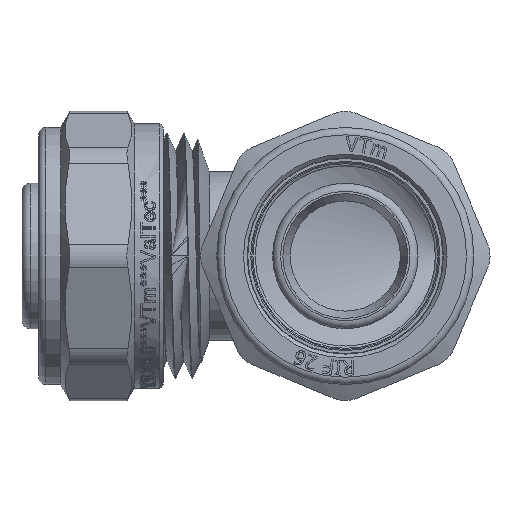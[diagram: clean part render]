
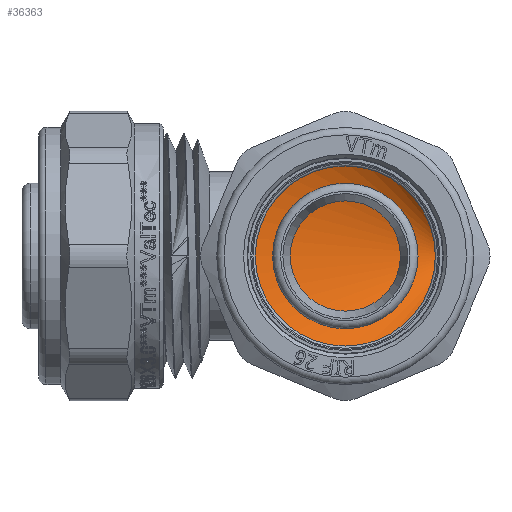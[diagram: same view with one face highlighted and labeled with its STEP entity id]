
A CAD part, left-side view. The second image highlights one B-rep face of the part: STEP entity #36363.
In plain terms, the highlighted cylindrical face has radius 15.25 mm (diameter 30.5 mm), a full revolution.
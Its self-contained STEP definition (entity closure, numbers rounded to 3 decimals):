
#2059=FACE_OUTER_BOUND('',#4115,.T.);
#4115=EDGE_LOOP('',(#24410,#24411,#24412,#24413,#24414,#24415,#24416,#24417));
#6344=CIRCLE('',#38446,15.25);
#6345=CIRCLE('',#38447,15.25);
#6346=CIRCLE('',#38448,15.25);
#7204=B_SPLINE_CURVE_WITH_KNOTS('',3,(#46333,#46334,#46335,#46336,#46337,
#46338,#46339,#46340,#46341,#46342,#46343,#46344,#46345,#46346,#46347,#46348,
#46349,#46350,#46351,#46352,#46353,#46354,#46355,#46356,#46357,#46358,#46359,
#46360,#46361,#46362,#46363,#46364,#46365,#46366),.UNSPECIFIED.,.F.,.F.,
(4,3,3,3,3,3,3,3,3,3,3,4),(1.209,1.479,1.972,
2.465,2.958,3.451,3.944,4.437,
4.93,5.424,5.917,6.096),
 .UNSPECIFIED.);
#7205=B_SPLINE_CURVE_WITH_KNOTS('',3,(#46369,#46370,#46371,#46372,#46373,
#46374,#46375,#46376,#46377,#46378),.UNSPECIFIED.,.F.,.F.,(4,3,3,4),(-1.271,
-0.973,-0.486,-0.148),.UNSPECIFIED.);
#9689=LINE('',#46331,#12138);
#9690=LINE('',#46380,#12139);
#12138=VECTOR('',#40248,15.25);
#12139=VECTOR('',#40251,15.25);
#14591=VERTEX_POINT('',#46329);
#14592=VERTEX_POINT('',#46330);
#14593=VERTEX_POINT('',#46332);
#14594=VERTEX_POINT('',#46367);
#14595=VERTEX_POINT('',#46379);
#14596=VERTEX_POINT('',#46381);
#18554=EDGE_CURVE('',#14591,#14592,#9689,.T.);
#18555=EDGE_CURVE('',#14593,#14591,#7204,.T.);
#18556=EDGE_CURVE('',#14594,#14593,#6344,.T.);
#18557=EDGE_CURVE('',#14592,#14594,#7205,.T.);
#18558=EDGE_CURVE('',#14592,#14595,#9690,.T.);
#18559=EDGE_CURVE('',#14596,#14595,#6345,.T.);
#18560=EDGE_CURVE('',#14595,#14596,#6346,.T.);
#24410=ORIENTED_EDGE('',*,*,#18554,.F.);
#24411=ORIENTED_EDGE('',*,*,#18555,.F.);
#24412=ORIENTED_EDGE('',*,*,#18556,.F.);
#24413=ORIENTED_EDGE('',*,*,#18557,.F.);
#24414=ORIENTED_EDGE('',*,*,#18558,.T.);
#24415=ORIENTED_EDGE('',*,*,#18559,.F.);
#24416=ORIENTED_EDGE('',*,*,#18560,.F.);
#24417=ORIENTED_EDGE('',*,*,#18558,.F.);
#36113=CYLINDRICAL_SURFACE('',#38445,15.25);
#36363=ADVANCED_FACE('',(#2059),#36113,.F.);
#38445=AXIS2_PLACEMENT_3D('',#46328,#40246,#40247);
#38446=AXIS2_PLACEMENT_3D('',#46368,#40249,#40250);
#38447=AXIS2_PLACEMENT_3D('',#46382,#40252,#40253);
#38448=AXIS2_PLACEMENT_3D('',#46383,#40254,#40255);
#40246=DIRECTION('center_axis',(1.,0.,0.));
#40247=DIRECTION('ref_axis',(0.,1.,0.));
#40248=DIRECTION('',(-1.,0.,0.));
#40249=DIRECTION('center_axis',(-1.,0.,0.));
#40250=DIRECTION('ref_axis',(0.,1.,0.));
#40251=DIRECTION('',(-1.,0.,0.));
#40252=DIRECTION('center_axis',(1.,0.,0.));
#40253=DIRECTION('ref_axis',(0.,0.,1.));
#40254=DIRECTION('center_axis',(1.,0.,0.));
#40255=DIRECTION('ref_axis',(0.,0.,1.));
#46328=CARTESIAN_POINT('Origin',(-31.82,0.,
0.));
#46329=CARTESIAN_POINT('',(-27.611,-15.25,0.));
#46330=CARTESIAN_POINT('',(-28.989,-15.25,0.));
#46331=CARTESIAN_POINT('',(-31.82,-15.25,0.));
#46332=CARTESIAN_POINT('',(-29.4,-2.658,-15.017));
#46333=CARTESIAN_POINT('Ctrl Pts',(-29.4,-2.658,-15.015));
#46334=CARTESIAN_POINT('Ctrl Pts',(-29.367,-1.303,
-15.255));
#46335=CARTESIAN_POINT('Ctrl Pts',(-29.334,0.084,
-15.313));
#46336=CARTESIAN_POINT('Ctrl Pts',(-29.301,1.453,-15.182));
#46337=CARTESIAN_POINT('Ctrl Pts',(-29.241,3.947,-14.943));
#46338=CARTESIAN_POINT('Ctrl Pts',(-29.181,6.382,-14.077));
#46339=CARTESIAN_POINT('Ctrl Pts',(-29.12,8.466,-12.686));
#46340=CARTESIAN_POINT('Ctrl Pts',(-29.06,10.55,-11.295));
#46341=CARTESIAN_POINT('Ctrl Pts',(-29.,12.284,-9.38));
#46342=CARTESIAN_POINT('Ctrl Pts',(-28.94,13.462,-7.168));
#46343=CARTESIAN_POINT('Ctrl Pts',(-28.88,14.639,-4.956));
#46344=CARTESIAN_POINT('Ctrl Pts',(-28.82,15.261,-2.448));
#46345=CARTESIAN_POINT('Ctrl Pts',(-28.759,15.251,0.057));
#46346=CARTESIAN_POINT('Ctrl Pts',(-28.699,15.242,2.563));
#46347=CARTESIAN_POINT('Ctrl Pts',(-28.639,14.602,5.066));
#46348=CARTESIAN_POINT('Ctrl Pts',(-28.579,13.407,7.269));
#46349=CARTESIAN_POINT('Ctrl Pts',(-28.519,12.213,9.472));
#46350=CARTESIAN_POINT('Ctrl Pts',(-28.459,10.465,11.374));
#46351=CARTESIAN_POINT('Ctrl Pts',(-28.399,8.37,12.749));
#46352=CARTESIAN_POINT('Ctrl Pts',(-28.338,6.275,14.124));
#46353=CARTESIAN_POINT('Ctrl Pts',(-28.278,3.835,14.972));
#46354=CARTESIAN_POINT('Ctrl Pts',(-28.218,1.339,15.192));
#46355=CARTESIAN_POINT('Ctrl Pts',(-28.158,-1.157,
15.412));
#46356=CARTESIAN_POINT('Ctrl Pts',(-28.098,-3.709,15.004));
#46357=CARTESIAN_POINT('Ctrl Pts',(-28.038,-6.012,
14.016));
#46358=CARTESIAN_POINT('Ctrl Pts',(-27.977,-8.314,
13.029));
#46359=CARTESIAN_POINT('Ctrl Pts',(-27.917,-10.369,11.462));
#46360=CARTESIAN_POINT('Ctrl Pts',(-27.857,-11.93,
9.502));
#46361=CARTESIAN_POINT('Ctrl Pts',(-27.797,-13.491,
7.542));
#46362=CARTESIAN_POINT('Ctrl Pts',(-27.737,-14.559,5.189));
#46363=CARTESIAN_POINT('Ctrl Pts',(-27.677,-15.006,2.723));
#46364=CARTESIAN_POINT('Ctrl Pts',(-27.655,-15.169,
1.826));
#46365=CARTESIAN_POINT('Ctrl Pts',(-27.633,-15.25,
0.913));
#46366=CARTESIAN_POINT('Ctrl Pts',(-27.611,-15.249,
0.));
#46367=CARTESIAN_POINT('',(-29.4,-6.611,13.743));
#46368=CARTESIAN_POINT('Origin',(-29.4,0.,0.));
#46369=CARTESIAN_POINT('Ctrl Pts',(-28.989,-15.249,
0.));
#46370=CARTESIAN_POINT('Ctrl Pts',(-29.025,-15.248,
1.515));
#46371=CARTESIAN_POINT('Ctrl Pts',(-29.062,-15.024,
3.03));
#46372=CARTESIAN_POINT('Ctrl Pts',(-29.098,-14.579,
4.478));
#46373=CARTESIAN_POINT('Ctrl Pts',(-29.158,-13.853,
6.841));
#46374=CARTESIAN_POINT('Ctrl Pts',(-29.217,-12.541,
9.025));
#46375=CARTESIAN_POINT('Ctrl Pts',(-29.276,-10.794,
10.774));
#46376=CARTESIAN_POINT('Ctrl Pts',(-29.318,-9.581,
11.989));
#46377=CARTESIAN_POINT('Ctrl Pts',(-29.359,-8.158,
12.995));
#46378=CARTESIAN_POINT('Ctrl Pts',(-29.4,-6.61,13.741));
#46379=CARTESIAN_POINT('',(-37.245,-15.25,0.));
#46380=CARTESIAN_POINT('',(-31.82,-15.25,0.));
#46381=CARTESIAN_POINT('',(-37.245,15.25,0.));
#46382=CARTESIAN_POINT('Origin',(-37.245,0.,
0.));
#46383=CARTESIAN_POINT('Origin',(-37.245,0.,
0.));
